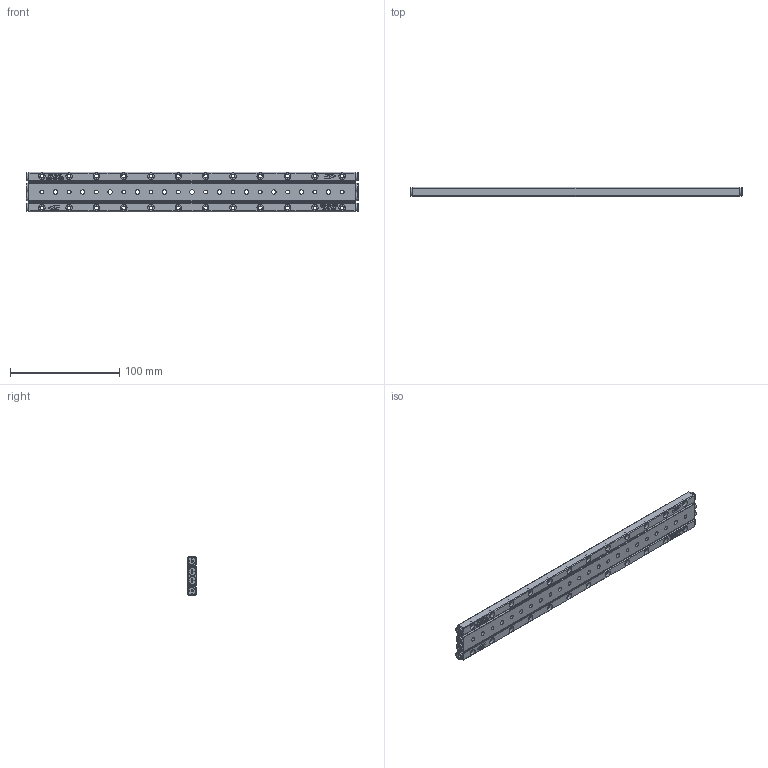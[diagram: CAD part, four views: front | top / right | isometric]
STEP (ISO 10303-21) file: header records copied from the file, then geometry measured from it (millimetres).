
FILE_DESCRIPTION (( 'STEP AP203' ), '1' );
FILE_NAME ('GBD03-300.STEP', '2023-12-14T05:51:27', ( '' ), ( '' ), 'SwSTEP 2.0', 'SolidWorks 2019', '' );
FILE_SCHEMA (( 'CONFIG_CONTROL_DESIGN' ));
Length unit declared in the file: millimetre
Products named in the file (4): GBV03-300-模糊化軌道; GBD03-300-模糊化中軌; GBD03-300; GBV03-300-模糊化保持器組
Assembly tree (5 placements, depth 2):
  GBD03-300
    GBD03-300-模糊化中軌
    GBV03-300-模糊化軌道  x2
    GBV03-300-模糊化保持器組  x2
Bounding box: 304 x 8.5 x 36 mm (x, y, z)
Volume: 72763.3 mm3; surface area: 46962 mm2
Topology: 5 solids, 5 shells, 1375 faces, 3693 edges, 2422 vertices
Faces by surface type: plane 798, bspline 252, sphere 144, cylinder 93, cone 72, torus 16
Full cylindrical faces by diameter (mm): 3.4 x24, 3.5 x12, 4 x11, 6 x36, 7.5 x8
Entity records: 36039 total; most frequent: CARTESIAN_POINT 15648, ORIENTED_EDGE 4186, DIRECTION 3525, EDGE_CURVE 2093, VERTEX_POINT 1402, VECTOR 1287, LINE 1287, EDGE_LOOP 1211
